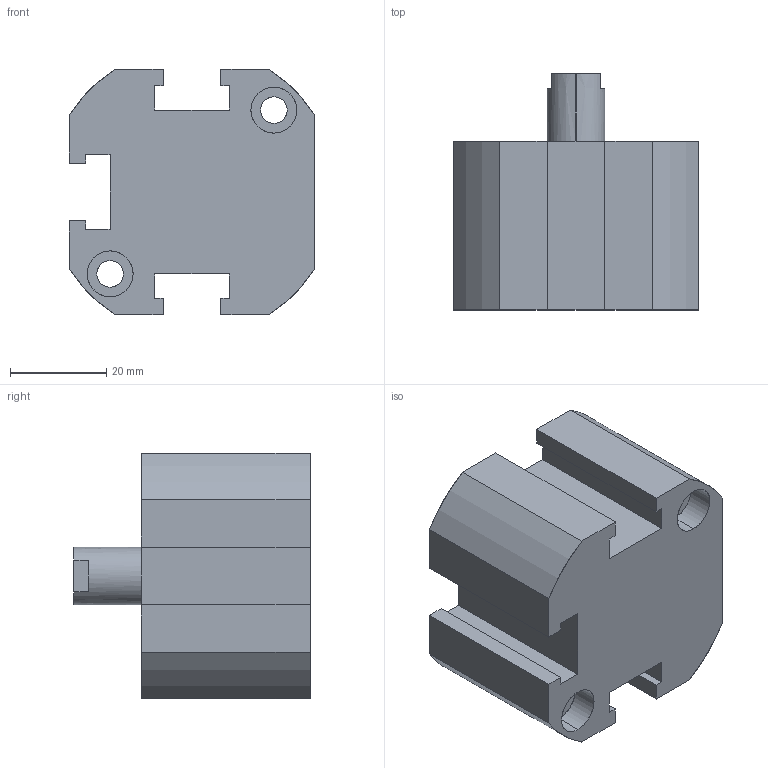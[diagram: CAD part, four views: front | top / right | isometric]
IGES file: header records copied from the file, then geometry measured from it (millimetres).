
Start section: SolidWorks IGES file using analytic representation for surfaces
Global section: file name: C:\Users\Toshiba\Desktop\XC#0-32-10.IGS; native system: SolidWorks 2014; preprocessor: SolidWorks 2014; author: Toshiba; date: 160523.145758; units: millimetre
Bounding box: 51 x 49 x 51 mm (x, y, z)
Surface area: 15813.5 mm2 (no closed solid volume)
Topology: 0 solids, 0 shells, 91 faces, 1382 edges, 1378 vertices
Faces by surface type: revolution 46, bspline 45
